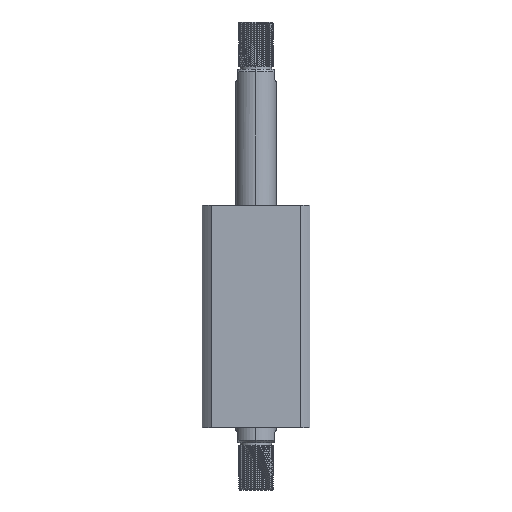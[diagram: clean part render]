
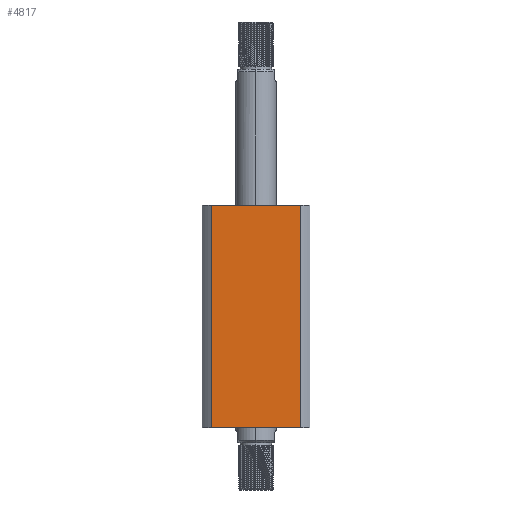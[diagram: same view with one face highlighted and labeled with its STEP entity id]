
A CAD part, left-side view. The second image highlights one B-rep face of the part: STEP entity #4817.
In plain terms, the highlighted planar face has unit normal (-1, 0, 0).
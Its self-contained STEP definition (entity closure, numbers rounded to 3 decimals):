
#444 = EDGE_CURVE ( 'NONE', #9972, #13540, #14972, .T. ) ;
#1119 = CARTESIAN_POINT ( 'NONE',  ( -40., -33.226, 82.5 ) ) ;
#1311 = VECTOR ( 'NONE', #2776, 1000. ) ;
#1886 = VECTOR ( 'NONE', #14476, 1000. ) ;
#2776 = DIRECTION ( 'NONE',  ( 0., 0., -1. ) ) ;
#3224 = ORIENTED_EDGE ( 'NONE', *, *, #10406, .F. ) ;
#4817 = ADVANCED_FACE ( 'NONE', ( #17016 ), #9686, .F. ) ;
#5277 = AXIS2_PLACEMENT_3D ( 'NONE', #16556, #15242, #13708 ) ;
#5483 = CARTESIAN_POINT ( 'NONE',  ( -40., -33.226, 82.5 ) ) ;
#6598 = CARTESIAN_POINT ( 'NONE',  ( -40., 33.226, -82.5 ) ) ;
#8285 = VECTOR ( 'NONE', #8617, 1000. ) ;
#8617 = DIRECTION ( 'NONE',  ( 0., -1., 0. ) ) ;
#9060 = EDGE_LOOP ( 'NONE', ( #15398, #17550, #3224, #10172 ) ) ;
#9539 = DIRECTION ( 'NONE',  ( 0., -1., 0. ) ) ;
#9686 = PLANE ( 'NONE',  #5277 ) ;
#9707 = CARTESIAN_POINT ( 'NONE',  ( -40., 33.226, -82.5 ) ) ;
#9890 = VERTEX_POINT ( 'NONE', #14605 ) ;
#9972 = VERTEX_POINT ( 'NONE', #1119 ) ;
#10172 = ORIENTED_EDGE ( 'NONE', *, *, #16455, .T. ) ;
#10281 = CARTESIAN_POINT ( 'NONE',  ( -40., 33.226, 82.5 ) ) ;
#10406 = EDGE_CURVE ( 'NONE', #9890, #9972, #14448, .T. ) ;
#11033 = LINE ( 'NONE', #9707, #8285 ) ;
#11270 = VECTOR ( 'NONE', #9539, 1000. ) ;
#13445 = VERTEX_POINT ( 'NONE', #6598 ) ;
#13484 = CARTESIAN_POINT ( 'NONE',  ( -40., 33.226, 82.5 ) ) ;
#13540 = VERTEX_POINT ( 'NONE', #16591 ) ;
#13708 = DIRECTION ( 'NONE',  ( 0., 1., 0. ) ) ;
#14448 = LINE ( 'NONE', #13484, #11270 ) ;
#14476 = DIRECTION ( 'NONE',  ( 0., 0., -1. ) ) ;
#14605 = CARTESIAN_POINT ( 'NONE',  ( -40., 33.226, 82.5 ) ) ;
#14972 = LINE ( 'NONE', #5483, #1311 ) ;
#15242 = DIRECTION ( 'NONE',  ( 1., 0., 0. ) ) ;
#15398 = ORIENTED_EDGE ( 'NONE', *, *, #17162, .T. ) ;
#16455 = EDGE_CURVE ( 'NONE', #9890, #13445, #17638, .T. ) ;
#16556 = CARTESIAN_POINT ( 'NONE',  ( -40., 33.226, 82.5 ) ) ;
#16591 = CARTESIAN_POINT ( 'NONE',  ( -40., -33.226, -82.5 ) ) ;
#17016 = FACE_OUTER_BOUND ( 'NONE', #9060, .T. ) ;
#17162 = EDGE_CURVE ( 'NONE', #13445, #13540, #11033, .T. ) ;
#17550 = ORIENTED_EDGE ( 'NONE', *, *, #444, .F. ) ;
#17638 = LINE ( 'NONE', #10281, #1886 ) ;
